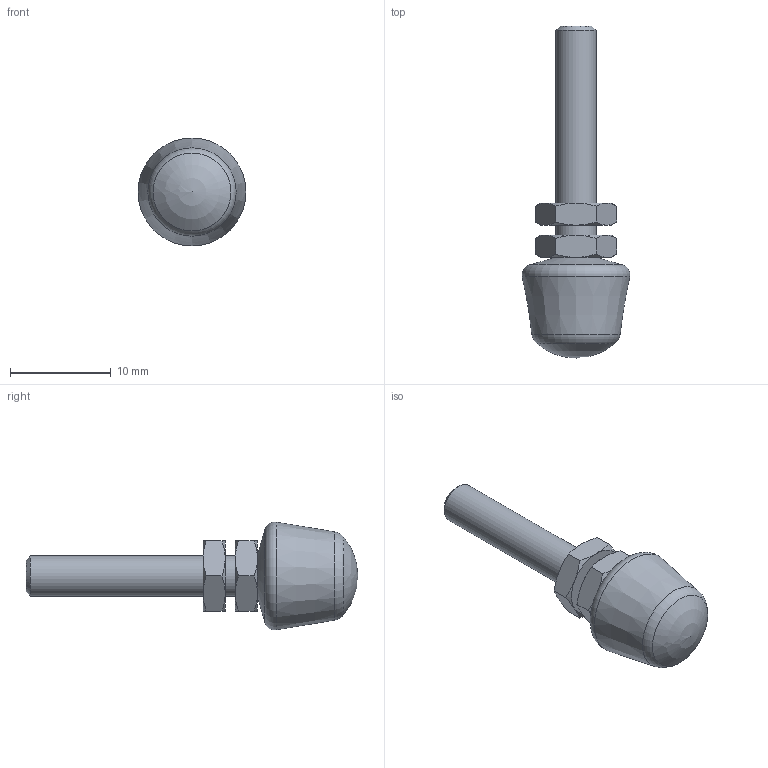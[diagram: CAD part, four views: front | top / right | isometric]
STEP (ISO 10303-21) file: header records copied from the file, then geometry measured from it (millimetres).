
FILE_DESCRIPTION( ( 'STEP AP203' ), '1' );
FILE_NAME( 'C:/Temp/Ganter_Step_05_03_2020/data/2_4/gn_708_1/gn_708_1_st/Clamping bolt GN 708.1-M4-33-B-ST (0).stp', '2020-03-13T05:51:09', ( 'License CC BY-ND 4.0' ), ( 'CADENAS' ), ' ', 'PARTsolutions', ' ' );
FILE_SCHEMA( ( 'CONFIG_CONTROL_DESIGN' ) );
Length unit declared in the file: millimetre
Products named in the file (3): Clamping bolt GN 708.1-M4-33-B-ST (0); _Andrueckschraube GN 708.1-M4-33-B-ST (0)-1; _Andrueckschraube GN 708.1-M4-33-B-ST-2
Assembly tree (3 placements, depth 2):
  Clamping bolt GN 708.1-M4-33-B-ST (0)
    _Andrueckschraube GN 708.1-M4-33-B-ST (0)-1
    _Andrueckschraube GN 708.1-M4-33-B-ST-2  x2
Bounding box: 10.73 x 33 x 10.73 mm (x, y, z)
Volume: 1075.6 mm3; surface area: 935.8 mm2
Topology: 3 solids, 3 shells, 54 faces, 114 edges, 65 vertices
Faces by surface type: cone 31, plane 17, cylinder 3, torus 2, sphere 1
Full cylindrical faces by diameter (mm): 3.242 x2, 4 x1
Entity records: 926 total; most frequent: CARTESIAN_POINT 229, DIRECTION 122, ORIENTED_EDGE 106, AXIS2_PLACEMENT_3D 58, EDGE_CURVE 53, EDGE_LOOP 42, VERTEX_POINT 37, FACE_OUTER_BOUND 35
